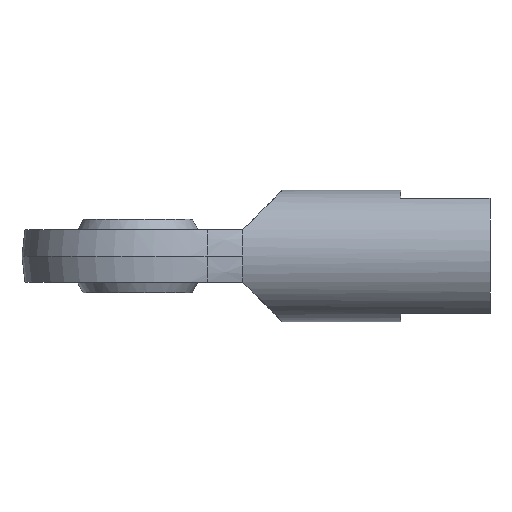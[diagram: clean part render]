
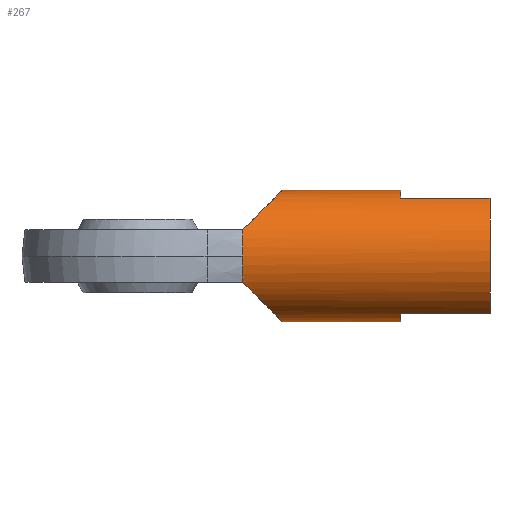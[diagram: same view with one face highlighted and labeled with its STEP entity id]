
A CAD part, front view. The second image highlights one B-rep face of the part: STEP entity #267.
In plain terms, the highlighted cylindrical face has radius 12.5 mm (diameter 25 mm), a partial arc.
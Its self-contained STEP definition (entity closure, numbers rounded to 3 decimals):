
#118 = VERTEX_POINT ( 'NONE', #468 ) ;
#119 = VERTEX_POINT ( 'NONE', #467 ) ;
#120 = EDGE_CURVE ( 'NONE', #119, #118, #466, .T. ) ;
#207 = EDGE_CURVE ( 'NONE', #364, #208, #729, .T. ) ;
#208 = VERTEX_POINT ( 'NONE', #725 ) ;
#215 = VERTEX_POINT ( 'NONE', #713 ) ;
#217 = EDGE_CURVE ( 'NONE', #218, #215, #871, .T. ) ;
#218 = VERTEX_POINT ( 'NONE', #867 ) ;
#261 = EDGE_CURVE ( 'NONE', #208, #403, #982, .T. ) ;
#267 = ADVANCED_FACE ( 'NONE', ( #1012 ), #1011, .T. ) ;
#268 = EDGE_LOOP ( 'NONE', ( #420, #421, #336, #407, #418, #423, #424, #427, #333, #401, #404 ) ) ;
#331 = EDGE_CURVE ( 'NONE', #332, #426, #941, .T. ) ;
#332 = VERTEX_POINT ( 'NONE', #937 ) ;
#333 = ORIENTED_EDGE ( 'NONE', *, *, #334, .F. ) ;
#334 = EDGE_CURVE ( 'NONE', #400, #332, #936, .T. ) ;
#335 = VERTEX_POINT ( 'NONE', #908 ) ;
#336 = ORIENTED_EDGE ( 'NONE', *, *, #406, .T. ) ;
#364 = VERTEX_POINT ( 'NONE', #1210 ) ;
#400 = VERTEX_POINT ( 'NONE', #1196 ) ;
#401 = ORIENTED_EDGE ( 'NONE', *, *, #402, .F. ) ;
#402 = EDGE_CURVE ( 'NONE', #403, #400, #1195, .T. ) ;
#403 = VERTEX_POINT ( 'NONE', #1191 ) ;
#404 = ORIENTED_EDGE ( 'NONE', *, *, #261, .F. ) ;
#406 = EDGE_CURVE ( 'NONE', #335, #119, #1190, .T. ) ;
#407 = ORIENTED_EDGE ( 'NONE', *, *, #120, .T. ) ;
#418 = ORIENTED_EDGE ( 'NONE', *, *, #419, .F. ) ;
#419 = EDGE_CURVE ( 'NONE', #218, #118, #1239, .T. ) ;
#420 = ORIENTED_EDGE ( 'NONE', *, *, #207, .F. ) ;
#421 = ORIENTED_EDGE ( 'NONE', *, *, #422, .F. ) ;
#422 = EDGE_CURVE ( 'NONE', #335, #364, #1179, .T. ) ;
#423 = ORIENTED_EDGE ( 'NONE', *, *, #217, .T. ) ;
#424 = ORIENTED_EDGE ( 'NONE', *, *, #425, .F. ) ;
#425 = EDGE_CURVE ( 'NONE', #426, #215, #1174, .T. ) ;
#426 = VERTEX_POINT ( 'NONE', #1169 ) ;
#427 = ORIENTED_EDGE ( 'NONE', *, *, #331, .F. ) ;
#462 = DIRECTION ( 'NONE',  ( 0., 1., 0. ) ) ;
#463 = DIRECTION ( 'NONE',  ( 1., 0., 0. ) ) ;
#464 = CARTESIAN_POINT ( 'NONE',  ( 20., 0., 0. ) ) ;
#465 = AXIS2_PLACEMENT_3D ( 'NONE', #464, #463, #462 ) ;
#466 = CIRCLE ( 'NONE', #465, 12.5 ) ;
#467 = CARTESIAN_POINT ( 'NONE',  ( 20., -12.5, 0. ) ) ;
#468 = CARTESIAN_POINT ( 'NONE',  ( 20., -11.456, -5. ) ) ;
#713 = CARTESIAN_POINT ( 'NONE',  ( 50., 0., -12.5 ) ) ;
#725 = CARTESIAN_POINT ( 'NONE',  ( 50., 0., 12.5 ) ) ;
#726 = DIRECTION ( 'NONE',  ( 1., 0., 0. ) ) ;
#727 = VECTOR ( 'NONE', #726, 1000. ) ;
#728 = CARTESIAN_POINT ( 'NONE',  ( 20., 0., 12.5 ) ) ;
#729 = LINE ( 'NONE', #728, #727 ) ;
#867 = CARTESIAN_POINT ( 'NONE',  ( 27.5, 0., -12.5 ) ) ;
#868 = DIRECTION ( 'NONE',  ( 1., 0., 0. ) ) ;
#869 = VECTOR ( 'NONE', #868, 1000. ) ;
#870 = CARTESIAN_POINT ( 'NONE',  ( 20., 0., -12.5 ) ) ;
#871 = LINE ( 'NONE', #870, #869 ) ;
#908 = CARTESIAN_POINT ( 'NONE',  ( 20., -11.456, 5. ) ) ;
#909 = DIRECTION ( 'NONE',  ( 0., 0., -1. ) ) ;
#910 = DIRECTION ( 'NONE',  ( 1., 0., 0. ) ) ;
#934 = CARTESIAN_POINT ( 'NONE',  ( 67., 0., 0. ) ) ;
#935 = AXIS2_PLACEMENT_3D ( 'NONE', #934, #910, #909 ) ;
#936 = CIRCLE ( 'NONE', #935, 12.5 ) ;
#937 = CARTESIAN_POINT ( 'NONE',  ( 67., -5.937, -11. ) ) ;
#938 = DIRECTION ( 'NONE',  ( -1., 0., 0. ) ) ;
#939 = VECTOR ( 'NONE', #938, 1000. ) ;
#940 = CARTESIAN_POINT ( 'NONE',  ( 20., -5.937, -11. ) ) ;
#941 = LINE ( 'NONE', #940, #939 ) ;
#982 = CIRCLE ( 'NONE', #1024, 12.5 ) ;
#1007 = DIRECTION ( 'NONE',  ( 0., 0., -1. ) ) ;
#1008 = DIRECTION ( 'NONE',  ( 1., 0., 0. ) ) ;
#1009 = AXIS2_PLACEMENT_3D ( 'NONE', #1010, #1008, #1007 ) ;
#1010 = CARTESIAN_POINT ( 'NONE',  ( 20., 0., 0. ) ) ;
#1011 = CYLINDRICAL_SURFACE ( 'NONE', #1009, 12.5 ) ;
#1012 = FACE_OUTER_BOUND ( 'NONE', #268, .T. ) ;
#1021 = DIRECTION ( 'NONE',  ( 0., 0., 1. ) ) ;
#1022 = DIRECTION ( 'NONE',  ( 1., 0., 0. ) ) ;
#1023 = CARTESIAN_POINT ( 'NONE',  ( 50., 0., 0. ) ) ;
#1024 = AXIS2_PLACEMENT_3D ( 'NONE', #1023, #1022, #1021 ) ;
#1169 = CARTESIAN_POINT ( 'NONE',  ( 50., -5.937, -11. ) ) ;
#1170 = DIRECTION ( 'NONE',  ( 0., 0., 1. ) ) ;
#1171 = DIRECTION ( 'NONE',  ( 1., 0., 0. ) ) ;
#1172 = CARTESIAN_POINT ( 'NONE',  ( 50., 0., 0. ) ) ;
#1173 = AXIS2_PLACEMENT_3D ( 'NONE', #1172, #1171, #1170 ) ;
#1174 = CIRCLE ( 'NONE', #1173, 12.5 ) ;
#1175 = CARTESIAN_POINT ( 'NONE',  ( 27.5, 0., 12.5 ) ) ;
#1176 = CARTESIAN_POINT ( 'NONE',  ( 27.5, -5.122, 12.5 ) ) ;
#1177 = CARTESIAN_POINT ( 'NONE',  ( 24.694, -9.408, 9.694 ) ) ;
#1178 = CARTESIAN_POINT ( 'NONE',  ( 20., -11.456, 5. ) ) ;
#1179 =( BOUNDED_CURVE ( )  B_SPLINE_CURVE ( 3, ( #1178, #1177, #1176, #1175 ),
 .UNSPECIFIED., .F., .F. ) 
 B_SPLINE_CURVE_WITH_KNOTS ( ( 4, 4 ),
 ( 5.124, 6.283 ),
 .UNSPECIFIED. ) 
 CURVE ( )  GEOMETRIC_REPRESENTATION_ITEM ( )  RATIONAL_B_SPLINE_CURVE ( ( 1., 0.891, 0.891, 1. ) ) 
 REPRESENTATION_ITEM ( '' )  );
#1186 = DIRECTION ( 'NONE',  ( 0., 1., 0. ) ) ;
#1187 = DIRECTION ( 'NONE',  ( 1., 0., 0. ) ) ;
#1188 = CARTESIAN_POINT ( 'NONE',  ( 20., 0., 0. ) ) ;
#1189 = AXIS2_PLACEMENT_3D ( 'NONE', #1188, #1187, #1186 ) ;
#1190 = CIRCLE ( 'NONE', #1189, 12.5 ) ;
#1191 = CARTESIAN_POINT ( 'NONE',  ( 50., -5.937, 11. ) ) ;
#1192 = DIRECTION ( 'NONE',  ( 1., 0., 0. ) ) ;
#1193 = VECTOR ( 'NONE', #1192, 1000. ) ;
#1194 = CARTESIAN_POINT ( 'NONE',  ( 20., -5.937, 11. ) ) ;
#1195 = LINE ( 'NONE', #1194, #1193 ) ;
#1196 = CARTESIAN_POINT ( 'NONE',  ( 67., -5.937, 11. ) ) ;
#1210 = CARTESIAN_POINT ( 'NONE',  ( 27.5, 0., 12.5 ) ) ;
#1235 = CARTESIAN_POINT ( 'NONE',  ( 20., -11.456, -5. ) ) ;
#1236 = CARTESIAN_POINT ( 'NONE',  ( 24.694, -9.408, -9.694 ) ) ;
#1237 = CARTESIAN_POINT ( 'NONE',  ( 27.5, -5.122, -12.5 ) ) ;
#1238 = CARTESIAN_POINT ( 'NONE',  ( 27.5, 0., -12.5 ) ) ;
#1239 =( BOUNDED_CURVE ( )  B_SPLINE_CURVE ( 3, ( #1238, #1237, #1236, #1235 ),
 .UNSPECIFIED., .F., .F. ) 
 B_SPLINE_CURVE_WITH_KNOTS ( ( 4, 4 ),
 ( 0., 1.159 ),
 .UNSPECIFIED. ) 
 CURVE ( )  GEOMETRIC_REPRESENTATION_ITEM ( )  RATIONAL_B_SPLINE_CURVE ( ( 1., 0.891, 0.891, 1. ) ) 
 REPRESENTATION_ITEM ( '' )  );
